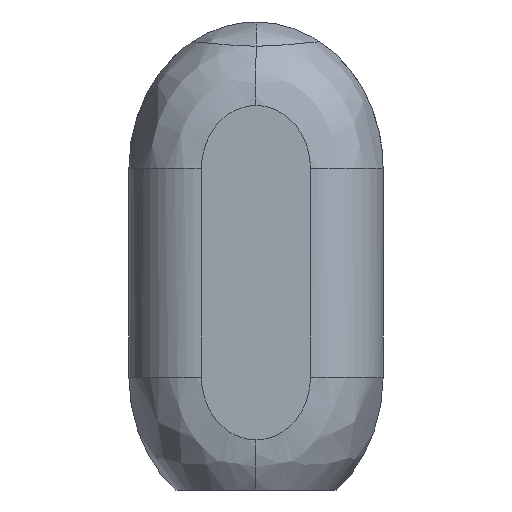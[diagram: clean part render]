
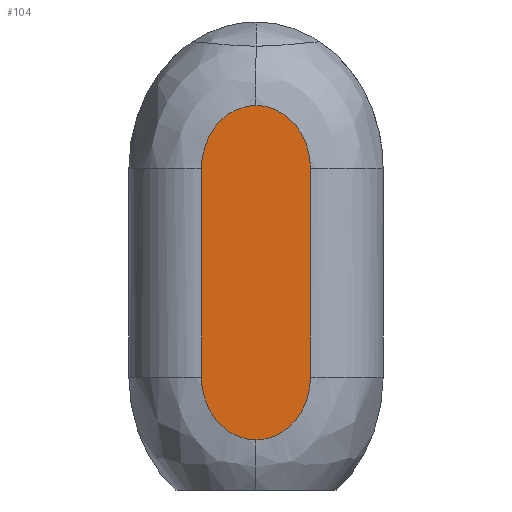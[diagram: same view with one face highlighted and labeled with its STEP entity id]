
A CAD part, left-side view. The second image highlights one B-rep face of the part: STEP entity #104.
In plain terms, the highlighted planar face has unit normal (-1, 0, 0).
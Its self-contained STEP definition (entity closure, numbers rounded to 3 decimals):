
#104=ADVANCED_FACE('',(#260),#2386,.T.);
#260=FACE_OUTER_BOUND('',#419,.T.);
#419=EDGE_LOOP('',(#776,#777,#778,#779,#780,#781));
#776=ORIENTED_EDGE('',*,*,#1354,.T.);
#777=ORIENTED_EDGE('',*,*,#1360,.F.);
#778=ORIENTED_EDGE('',*,*,#1357,.F.);
#779=ORIENTED_EDGE('',*,*,#1346,.T.);
#780=ORIENTED_EDGE('',*,*,#1358,.T.);
#781=ORIENTED_EDGE('',*,*,#1362,.T.);
#1346=EDGE_CURVE('',#2089,#2088,#1961,.T.);
#1354=EDGE_CURVE('',#2084,#2085,#1724,.T.);
#1357=EDGE_CURVE('',#2089,#2087,#1727,.T.);
#1358=EDGE_CURVE('',#2088,#2086,#1728,.T.);
#1360=EDGE_CURVE('',#2087,#2085,#1730,.T.);
#1362=EDGE_CURVE('',#2086,#2084,#1732,.T.);
#1724=(
BOUNDED_CURVE()
B_SPLINE_CURVE(1,(#5413,#5414),.UNSPECIFIED.,.F.,.F.)
B_SPLINE_CURVE_WITH_KNOTS((2,2),(0.,50.),
 .UNSPECIFIED.)
CURVE()
GEOMETRIC_REPRESENTATION_ITEM()
RATIONAL_B_SPLINE_CURVE((1.,1.))
REPRESENTATION_ITEM('')
);
#1727=(
BOUNDED_CURVE()
B_SPLINE_CURVE(3,(#5434,#5435,#5436,#5437,#5438,#5439,#5440,#5441,#5442,
#5443,#5444),.UNSPECIFIED.,.F.,.F.)
B_SPLINE_CURVE_WITH_KNOTS((4,1,1,1,1,1,1,1,4),(0.,2.827,5.654,
8.718,11.781,14.844,17.907,20.735,
23.562),.UNSPECIFIED.)
CURVE()
GEOMETRIC_REPRESENTATION_ITEM()
RATIONAL_B_SPLINE_CURVE((1.,1.,1.,1.,1.,1.,1.,1.,1.,1.,1.))
REPRESENTATION_ITEM('')
);
#1728=(
BOUNDED_CURVE()
B_SPLINE_CURVE(3,(#5445,#5446,#5447,#5448,#5449,#5450,#5451,#5452,#5453,
#5454,#5455),.UNSPECIFIED.,.F.,.F.)
B_SPLINE_CURVE_WITH_KNOTS((4,1,1,1,1,1,1,1,4),(0.,2.827,
5.654,8.718,11.781,14.844,17.907,
20.735,23.562),.UNSPECIFIED.)
CURVE()
GEOMETRIC_REPRESENTATION_ITEM()
RATIONAL_B_SPLINE_CURVE((1.,1.,1.,1.,1.,1.,1.,
1.,1.,1.,1.))
REPRESENTATION_ITEM('')
);
#1730=(
BOUNDED_CURVE()
B_SPLINE_CURVE(3,(#5464,#5465,#5466,#5467,#5468,#5469,#5470,#5471,#5472,
#5473,#5474),.UNSPECIFIED.,.F.,.F.)
B_SPLINE_CURVE_WITH_KNOTS((4,1,1,1,1,1,1,1,4),(0.,2.827,5.654,
8.718,11.781,14.844,17.907,20.735,
23.562),.UNSPECIFIED.)
CURVE()
GEOMETRIC_REPRESENTATION_ITEM()
RATIONAL_B_SPLINE_CURVE((1.,1.,1.,1.,1.,1.,1.,1.,1.,1.,1.))
REPRESENTATION_ITEM('')
);
#1732=(
BOUNDED_CURVE()
B_SPLINE_CURVE(3,(#5494,#5495,#5496,#5497,#5498,#5499,#5500,#5501,#5502,
#5503,#5504),.UNSPECIFIED.,.F.,.F.)
B_SPLINE_CURVE_WITH_KNOTS((4,1,1,1,1,1,1,1,4),(0.,2.827,
5.654,8.718,11.781,14.844,17.907,
20.735,23.562),.UNSPECIFIED.)
CURVE()
GEOMETRIC_REPRESENTATION_ITEM()
RATIONAL_B_SPLINE_CURVE((1.,1.,1.,1.,1.,1.,1.,1.,1.,1.,1.))
REPRESENTATION_ITEM('')
);
#1961=B_SPLINE_CURVE_WITH_KNOTS('',1,(#5392,#5393),.UNSPECIFIED.,.F.,.F.,
(2,2),(0.,50.),.UNSPECIFIED.);
#2084=VERTEX_POINT('',#5362);
#2085=VERTEX_POINT('',#5363);
#2086=VERTEX_POINT('',#5364);
#2087=VERTEX_POINT('',#5365);
#2088=VERTEX_POINT('',#5366);
#2089=VERTEX_POINT('',#5367);
#2386=PLANE('',#2426);
#2426=AXIS2_PLACEMENT_3D('',#5030,#2449,$);
#2449=DIRECTION('',(-1.,0.,0.));
#5030=CARTESIAN_POINT('',(1982.121,-697.899,7.684));
#5362=CARTESIAN_POINT('',(1982.121,-715.033,91.157));
#5363=CARTESIAN_POINT('',(1982.121,-715.033,42.055));
#5364=CARTESIAN_POINT('',(1982.121,-727.838,105.888));
#5365=CARTESIAN_POINT('',(1982.121,-727.838,27.325));
#5366=CARTESIAN_POINT('',(1982.121,-740.643,91.157));
#5367=CARTESIAN_POINT('',(1982.121,-740.643,42.055));
#5392=CARTESIAN_POINT('',(1982.121,-740.643,42.055));
#5393=CARTESIAN_POINT('',(1982.121,-740.643,91.157));
#5413=CARTESIAN_POINT('',(1982.121,-715.033,91.157));
#5414=CARTESIAN_POINT('',(1982.121,-715.033,42.055));
#5434=CARTESIAN_POINT('',(1982.121,-740.643,42.055));
#5435=CARTESIAN_POINT('',(1982.121,-740.643,41.13));
#5436=CARTESIAN_POINT('',(1982.121,-740.491,39.279));
#5437=CARTESIAN_POINT('',(1982.121,-739.796,36.526));
#5438=CARTESIAN_POINT('',(1982.121,-738.615,33.912));
#5439=CARTESIAN_POINT('',(1982.121,-736.956,31.566));
#5440=CARTESIAN_POINT('',(1982.121,-734.917,29.657));
#5441=CARTESIAN_POINT('',(1982.121,-732.644,28.299));
#5442=CARTESIAN_POINT('',(1982.121,-730.251,27.5));
#5443=CARTESIAN_POINT('',(1982.121,-728.642,27.325));
#5444=CARTESIAN_POINT('',(1982.121,-727.838,27.325));
#5445=CARTESIAN_POINT('',(1982.121,-740.643,91.157));
#5446=CARTESIAN_POINT('',(1982.121,-740.643,92.083));
#5447=CARTESIAN_POINT('',(1982.121,-740.491,93.934));
#5448=CARTESIAN_POINT('',(1982.121,-739.796,96.686));
#5449=CARTESIAN_POINT('',(1982.121,-738.615,99.301));
#5450=CARTESIAN_POINT('',(1982.121,-736.956,101.646));
#5451=CARTESIAN_POINT('',(1982.121,-734.917,103.555));
#5452=CARTESIAN_POINT('',(1982.121,-732.644,104.913));
#5453=CARTESIAN_POINT('',(1982.121,-730.251,105.713));
#5454=CARTESIAN_POINT('',(1982.121,-728.642,105.888));
#5455=CARTESIAN_POINT('',(1982.121,-727.838,105.888));
#5464=CARTESIAN_POINT('',(1982.121,-727.838,27.325));
#5465=CARTESIAN_POINT('',(1982.121,-727.033,27.325));
#5466=CARTESIAN_POINT('',(1982.121,-725.424,27.5));
#5467=CARTESIAN_POINT('',(1982.121,-723.031,28.299));
#5468=CARTESIAN_POINT('',(1982.121,-720.759,29.657));
#5469=CARTESIAN_POINT('',(1982.121,-718.72,31.566));
#5470=CARTESIAN_POINT('',(1982.121,-717.06,33.912));
#5471=CARTESIAN_POINT('',(1982.121,-715.88,36.526));
#5472=CARTESIAN_POINT('',(1982.121,-715.185,39.279));
#5473=CARTESIAN_POINT('',(1982.121,-715.032,41.13));
#5474=CARTESIAN_POINT('',(1982.121,-715.033,42.055));
#5494=CARTESIAN_POINT('',(1982.121,-727.838,105.888));
#5495=CARTESIAN_POINT('',(1982.121,-727.033,105.888));
#5496=CARTESIAN_POINT('',(1982.121,-725.424,105.713));
#5497=CARTESIAN_POINT('',(1982.121,-723.031,104.913));
#5498=CARTESIAN_POINT('',(1982.121,-720.759,103.555));
#5499=CARTESIAN_POINT('',(1982.121,-718.72,101.646));
#5500=CARTESIAN_POINT('',(1982.121,-717.06,99.301));
#5501=CARTESIAN_POINT('',(1982.121,-715.88,96.686));
#5502=CARTESIAN_POINT('',(1982.121,-715.185,93.934));
#5503=CARTESIAN_POINT('',(1982.121,-715.032,92.083));
#5504=CARTESIAN_POINT('',(1982.121,-715.033,91.157));
